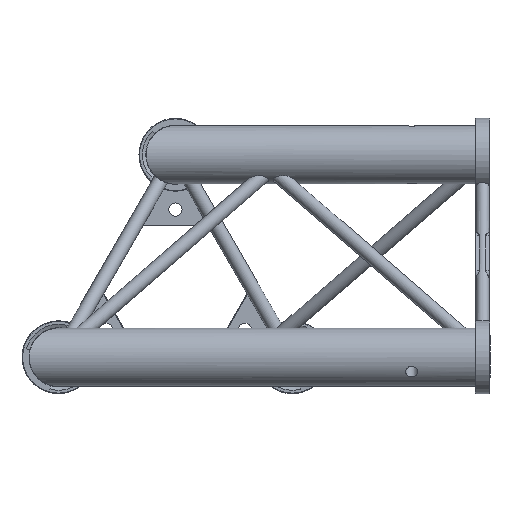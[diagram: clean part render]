
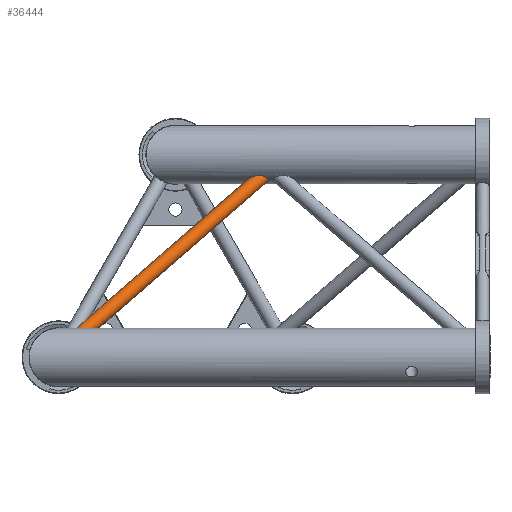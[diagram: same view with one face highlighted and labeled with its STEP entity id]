
A CAD part, left-side view. The second image highlights one B-rep face of the part: STEP entity #36444.
In plain terms, the highlighted cylindrical face has radius 6.35 mm (diameter 12.7 mm), a full revolution.
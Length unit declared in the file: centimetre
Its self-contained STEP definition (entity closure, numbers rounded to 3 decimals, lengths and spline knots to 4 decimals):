
#33=ELLIPSE('',#38064,2.54,0.635);
#969=CYLINDRICAL_SURFACE('',#38063,0.635);
#1175=FACE_BOUND('',#6424,.T.);
#2421=B_SPLINE_CURVE_WITH_KNOTS('',3,(#57307,#57308,#57309,#57310,#57311,
#57312,#57313,#57314,#57315,#57316,#57317,#57318,#57319,#57320,#57321,#57322,
#57323,#57324,#57325,#57326,#57327,#57328,#57329,#57330,#57331,#57332,#57333,
#57334,#57335,#57336,#57337,#57338,#57339),.UNSPECIFIED.,.F.,.F.,(4,2,2,
2,2,2,2,2,2,2,2,3,2,2,2,4),(1.9379,2.2213,2.5589,
2.8964,3.1744,3.3134,3.4524,3.5914,
3.7304,4.0084,4.346,4.6835,5.0052,
5.327,5.5606,5.7484),.UNSPECIFIED.);
#2422=B_SPLINE_CURVE_WITH_KNOTS('',3,(#57341,#57342,#57343,#57344,#57345,
#57346,#57347,#57348,#57349,#57350,#57351,#57352,#57353,#57354,#57355,#57356,
#57357,#57358,#57359,#57360,#57361,#57362,#57363,#57364,#57365,#57366,#57367,
#57368,#57369,#57370,#57371,#57372,#57373,#57374,#57375,#57376,#57377,#57378),
 .UNSPECIFIED.,.T.,.F.,(4,2,2,2,2,2,2,2,2,2,2,2,2,2,2,2,2,2,4),(0.,0.3217,
0.6435,0.8771,1.1107,1.3443,1.5779,
1.8996,2.2213,2.5589,2.8964,3.1744,
3.3134,3.4524,3.5914,3.7304,4.0084,
4.346,4.6835),.UNSPECIFIED.);
#4325=FACE_OUTER_BOUND('',#6423,.T.);
#6423=EDGE_LOOP('',(#27436,#27437));
#6424=EDGE_LOOP('',(#27438));
#15478=VERTEX_POINT('',#57304);
#15479=VERTEX_POINT('',#57305);
#15480=VERTEX_POINT('',#57340);
#19762=EDGE_CURVE('',#15478,#15479,#33,.T.);
#19763=EDGE_CURVE('',#15479,#15478,#2421,.T.);
#19764=EDGE_CURVE('',#15480,#15480,#2422,.T.);
#27436=ORIENTED_EDGE('',*,*,#19762,.F.);
#27437=ORIENTED_EDGE('',*,*,#19763,.F.);
#27438=ORIENTED_EDGE('',*,*,#19764,.F.);
#36444=ADVANCED_FACE('',(#4325,#1175),#969,.T.);
#38063=AXIS2_PLACEMENT_3D('',#57303,#41526,#41527);
#38064=AXIS2_PLACEMENT_3D('',#57306,#41528,#41529);
#41526=DIRECTION('center_axis',(0.354,-0.707,0.612));
#41527=DIRECTION('ref_axis',(-0.354,-0.707,-0.612));
#41528=DIRECTION('center_axis',(0.707,0.707,0.));
#41529=DIRECTION('ref_axis',(-0.548,0.548,-0.632));
#57303=CARTESIAN_POINT('Origin',(-19.2545,18.6231,1.8108));
#57304=CARTESIAN_POINT('',(-19.0701,19.0701,2.2224));
#57305=CARTESIAN_POINT('',(-18.5479,18.5479,1.8389));
#57306=CARTESIAN_POINT('Origin',(-19.8859,19.8859,0.7172));
#57307=CARTESIAN_POINT('Ctrl Pts',(-18.5479,18.5479,1.8389));
#57308=CARTESIAN_POINT('Ctrl Pts',(-18.5284,18.4508,1.8204));
#57309=CARTESIAN_POINT('Ctrl Pts',(-18.5204,18.3492,1.8124));
#57310=CARTESIAN_POINT('Ctrl Pts',(-18.5204,18.1422,1.8124));
#57311=CARTESIAN_POINT('Ctrl Pts',(-18.5318,18.0204,1.8237));
#57312=CARTESIAN_POINT('Ctrl Pts',(-18.5791,17.7863,1.8684));
#57313=CARTESIAN_POINT('Ctrl Pts',(-18.6149,17.674,1.9015));
#57314=CARTESIAN_POINT('Ctrl Pts',(-18.6992,17.5009,1.9727));
#57315=CARTESIAN_POINT('Ctrl Pts',(-18.7501,17.4234,2.0138));
#57316=CARTESIAN_POINT('Ctrl Pts',(-18.8439,17.339,2.0816));
#57317=CARTESIAN_POINT('Ctrl Pts',(-18.8781,17.316,2.1052));
#57318=CARTESIAN_POINT('Ctrl Pts',(-18.9511,17.2846,2.1527));
#57319=CARTESIAN_POINT('Ctrl Pts',(-18.9899,17.2761,2.1765));
#57320=CARTESIAN_POINT('Ctrl Pts',(-19.0701,17.2761,2.2229));
#57321=CARTESIAN_POINT('Ctrl Pts',(-19.1102,17.2846,2.2445));
#57322=CARTESIAN_POINT('Ctrl Pts',(-19.1878,17.316,2.284));
#57323=CARTESIAN_POINT('Ctrl Pts',(-19.2254,17.339,2.3018));
#57324=CARTESIAN_POINT('Ctrl Pts',(-19.331,17.4234,2.3492));
#57325=CARTESIAN_POINT('Ctrl Pts',(-19.392,17.5009,2.3727));
#57326=CARTESIAN_POINT('Ctrl Pts',(-19.4958,17.674,2.4101));
#57327=CARTESIAN_POINT('Ctrl Pts',(-19.5424,17.7863,2.4246));
#57328=CARTESIAN_POINT('Ctrl Pts',(-19.6047,18.0204,2.4432));
#57329=CARTESIAN_POINT('Ctrl Pts',(-19.6203,18.1422,2.4474));
#57330=CARTESIAN_POINT('Ctrl Pts',(-19.6203,18.2547,2.4474));
#57331=CARTESIAN_POINT('Ctrl Pts',(-19.6203,18.362,2.4474));
#57332=CARTESIAN_POINT('Ctrl Pts',(-19.606,18.4784,2.4436));
#57333=CARTESIAN_POINT('Ctrl Pts',(-19.5385,18.6956,2.4234));
#57334=CARTESIAN_POINT('Ctrl Pts',(-19.4851,18.7964,2.4068));
#57335=CARTESIAN_POINT('Ctrl Pts',(-19.3681,18.9331,2.3634));
#57336=CARTESIAN_POINT('Ctrl Pts',(-19.3058,18.9849,2.3385));
#57337=CARTESIAN_POINT('Ctrl Pts',(-19.1837,19.0476,2.2823));
#57338=CARTESIAN_POINT('Ctrl Pts',(-19.1258,19.0648,2.2532));
#57339=CARTESIAN_POINT('Ctrl Pts',(-19.0701,19.0701,2.2224));
#57340=CARTESIAN_POINT('',(-11.42,2.0561,15.3806));
#57341=CARTESIAN_POINT('Ctrl Pts',(-11.9296,2.8734,15.768));
#57342=CARTESIAN_POINT('Ctrl Pts',(-11.9296,2.7662,15.768));
#57343=CARTESIAN_POINT('Ctrl Pts',(-11.9192,2.6498,15.7575));
#57344=CARTESIAN_POINT('Ctrl Pts',(-11.868,2.4325,15.7091));
#57345=CARTESIAN_POINT('Ctrl Pts',(-11.8269,2.3318,15.6712));
#57346=CARTESIAN_POINT('Ctrl Pts',(-11.7308,2.1951,15.5915));
#57347=CARTESIAN_POINT('Ctrl Pts',(-11.6782,2.1432,15.5501));
#57348=CARTESIAN_POINT('Ctrl Pts',(-11.5565,2.0737,15.464));
#57349=CARTESIAN_POINT('Ctrl Pts',(-11.4874,2.0561,15.4195));
#57350=CARTESIAN_POINT('Ctrl Pts',(-11.3526,2.0561,15.3417));
#57351=CARTESIAN_POINT('Ctrl Pts',(-11.2795,2.0737,15.3041));
#57352=CARTESIAN_POINT('Ctrl Pts',(-11.1442,2.1432,15.2418));
#57353=CARTESIAN_POINT('Ctrl Pts',(-11.0819,2.1951,15.2169));
#57354=CARTESIAN_POINT('Ctrl Pts',(-10.9649,2.3318,15.1735));
#57355=CARTESIAN_POINT('Ctrl Pts',(-10.9115,2.4325,15.1569));
#57356=CARTESIAN_POINT('Ctrl Pts',(-10.844,2.6498,15.1367));
#57357=CARTESIAN_POINT('Ctrl Pts',(-10.8297,2.7662,15.133));
#57358=CARTESIAN_POINT('Ctrl Pts',(-10.8297,2.9859,15.133));
#57359=CARTESIAN_POINT('Ctrl Pts',(-10.8453,3.1078,15.1371));
#57360=CARTESIAN_POINT('Ctrl Pts',(-10.9076,3.3419,15.1557));
#57361=CARTESIAN_POINT('Ctrl Pts',(-10.9542,3.4542,15.1702));
#57362=CARTESIAN_POINT('Ctrl Pts',(-11.058,3.6272,15.2076));
#57363=CARTESIAN_POINT('Ctrl Pts',(-11.119,3.7048,15.2312));
#57364=CARTESIAN_POINT('Ctrl Pts',(-11.2246,3.7892,15.2785));
#57365=CARTESIAN_POINT('Ctrl Pts',(-11.2622,3.8121,15.2963));
#57366=CARTESIAN_POINT('Ctrl Pts',(-11.3398,3.8436,15.3358));
#57367=CARTESIAN_POINT('Ctrl Pts',(-11.3799,3.8521,15.3574));
#57368=CARTESIAN_POINT('Ctrl Pts',(-11.4601,3.8521,15.4038));
#57369=CARTESIAN_POINT('Ctrl Pts',(-11.4989,3.8436,15.4277));
#57370=CARTESIAN_POINT('Ctrl Pts',(-11.5719,3.8121,15.4751));
#57371=CARTESIAN_POINT('Ctrl Pts',(-11.6061,3.7892,15.4988));
#57372=CARTESIAN_POINT('Ctrl Pts',(-11.6999,3.7048,15.5665));
#57373=CARTESIAN_POINT('Ctrl Pts',(-11.7508,3.6272,15.6076));
#57374=CARTESIAN_POINT('Ctrl Pts',(-11.8351,3.4542,15.6788));
#57375=CARTESIAN_POINT('Ctrl Pts',(-11.8709,3.3419,15.7119));
#57376=CARTESIAN_POINT('Ctrl Pts',(-11.9182,3.1078,15.7566));
#57377=CARTESIAN_POINT('Ctrl Pts',(-11.9296,2.9859,15.768));
#57378=CARTESIAN_POINT('Ctrl Pts',(-11.9296,2.8734,15.768));
